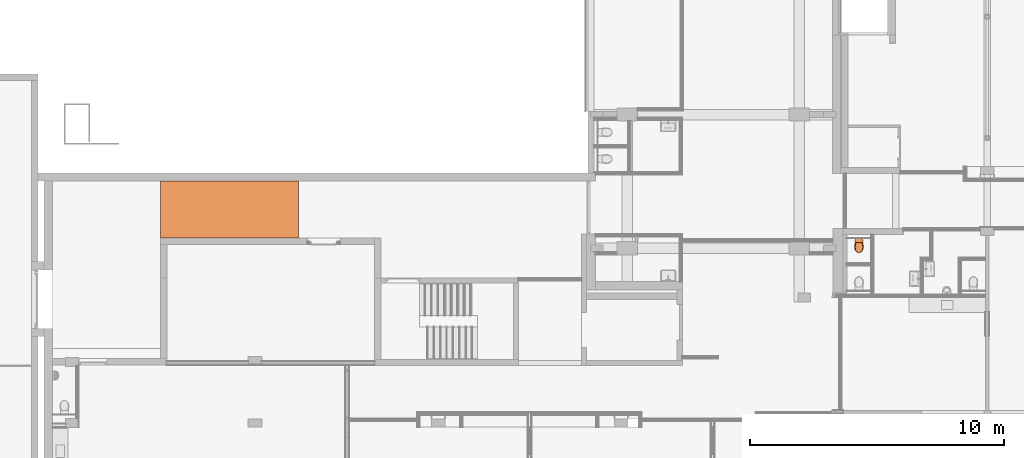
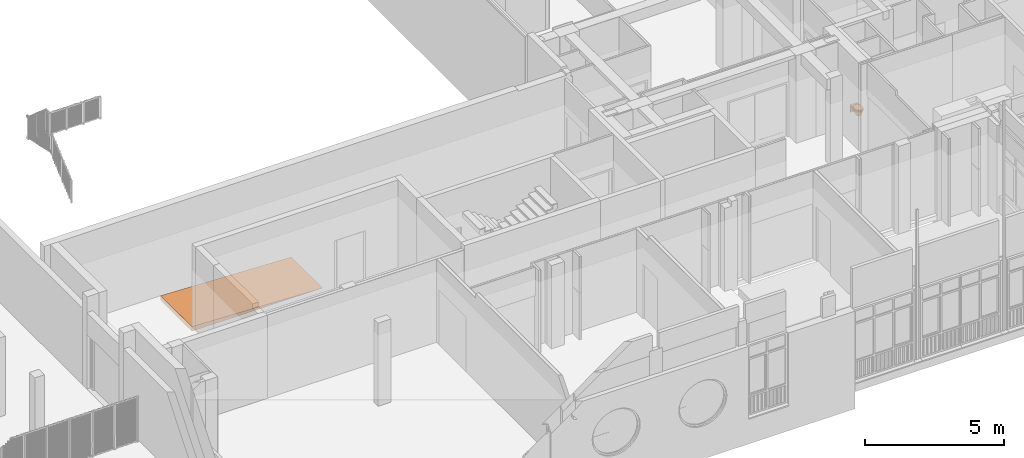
# One storey, part 132 of 135: 2 proxies.
"""IFC2X3 building model written with IfcOpenShell, lengths in millimetres."""

import ifcopenshell
import ifcopenshell.guid

model = None  # the IFC model being written
_history = None  # IfcOwnerHistory: only IFC2X3 demands one
_inside = {}  # id of a spatial element -> (the spatial element, [elements in it])
_under = {}  # id of a project, library or spatial element -> (it, [spatial elements below it])
_declared = {}  # id of a project -> (the project, [libraries it declares])
_typed = {}  # id of a type object -> (the type object, [elements of that type])
_made_of = {}  # id of a material, layer set ... -> (it, [elements and type objects made of it])


def new_model(schema):
    """Start an empty IFC model of exactly this schema.

    Asked for "IFC4X3", IfcOpenShell would pick the latest addendum, in which some entities
    have other attributes; the version numbers below select the first issue.
    IFC2X3 requires an IfcOwnerHistory on every rooted entity: one is made here for all.
    """
    global model, _history
    if schema == "IFC4X3":
        model = ifcopenshell.file(schema_version=(4, 3, 0, 0))
    else:
        model = ifcopenshell.file(schema=schema)
    _inside.clear()
    _under.clear()
    _declared.clear()
    _typed.clear()
    _made_of.clear()
    _history = None
    if model.schema == "IFC2X3":
        org = make("IfcOrganization", Name="unknown")
        user = make(
            "IfcPersonAndOrganization",
            ThePerson=make("IfcPerson", FamilyName="unknown"),
            TheOrganization=org,
        )
        app = make(
            "IfcApplication",
            ApplicationDeveloper=org,
            Version="unknown",
            ApplicationFullName="unknown",
            ApplicationIdentifier="unknown",
        )
        _history = make(
            "IfcOwnerHistory",
            OwningUser=user,
            OwningApplication=app,
            ChangeAction="ADDED",
            CreationDate=0,
        )
    return model


def make(cls, **values):
    """One entity of the class cls with the attributes given. An attribute that is None is left unset."""
    return model.create_entity(
        cls, **{name: value for name, value in values.items() if value is not None}
    )


def entity(cls, *values):
    """Any entity or typed value of the class cls, its attributes in the order of the schema. None: left unset."""
    e = model.create_entity(cls)
    for i, value in enumerate(values):
        if value is not None:
            e[i] = value
    return e


def rooted(cls, **values):
    """An entity with a GlobalId (a new one), such as an element, a storey or a relation."""
    return make(cls, GlobalId=ifcopenshell.guid.new(), OwnerHistory=_history, **values)


def si_unit(unit_type, name, prefix=None):
    """IfcSIUnit, for example si_unit("LENGTHUNIT", "METRE", prefix="MILLI")."""
    return make("IfcSIUnit", UnitType=unit_type, Prefix=prefix, Name=name)


def converted_unit(unit_type, name, factor, base, dimensions=None, offset=None):
    """IfcConversionBasedUnit, such as the inch: factor (a typed value) times the base unit."""
    return make(
        "IfcConversionBasedUnit"
        if offset is None
        else "IfcConversionBasedUnitWithOffset",
        ConversionOffset=offset,
        Dimensions=None
        if dimensions is None
        else entity("IfcDimensionalExponents", *dimensions),
        UnitType=unit_type,
        Name=name,
        ConversionFactor=make(
            "IfcMeasureWithUnit", ValueComponent=factor, UnitComponent=base
        ),
    )


def derived_unit(unit_type, elements):
    """IfcDerivedUnit: a product of units, each with its exponent."""
    return make(
        "IfcDerivedUnit",
        Elements=[
            make("IfcDerivedUnitElement", Unit=unit, Exponent=power)
            for unit, power in elements
        ],
        UnitType=unit_type,
    )


def money_unit(currency):
    """IfcMonetaryUnit."""
    return make("IfcMonetaryUnit", Currency=currency)


def assignment(units):
    """IfcUnitAssignment: the units of a project."""
    return None if units is None else make("IfcUnitAssignment", Units=units)


def point(xyz):
    """IfcCartesianPoint."""
    return None if xyz is None else make("IfcCartesianPoint", Coordinates=xyz)


def direction(xyz):
    """IfcDirection."""
    return None if xyz is None else make("IfcDirection", DirectionRatios=xyz)


def frame(location, z_axis=None, x_axis=None):
    """IfcAxis2Placement3D, a coordinate frame: its origin and axes. An axis left out is left unset."""
    return make(
        "IfcAxis2Placement3D",
        Location=point(location),
        Axis=direction(z_axis),
        RefDirection=direction(x_axis),
    )


def origin_with_axes():
    """The frame at (0, 0, 0) with the z axis (0, 0, 1) and the x axis (1, 0, 0) written out."""
    return frame((0.0, 0.0, 0.0), z_axis=(0.0, 0.0, 1.0), x_axis=(1.0, 0.0, 0.0))


def place(relative_to, where):
    """IfcLocalPlacement: puts the frame where relative to a parent placement (None: the world)."""
    return make(
        "IfcLocalPlacement", PlacementRelTo=relative_to, RelativePlacement=where
    )


def context(
    kind, dimensions, precision=None, world=None, true_north=None, identifier=None
):
    """IfcGeometricRepresentationContext, for example the 3D "Model" context."""
    return make(
        "IfcGeometricRepresentationContext",
        ContextIdentifier=identifier,
        ContextType=kind,
        CoordinateSpaceDimension=dimensions,
        Precision=precision,
        WorldCoordinateSystem=world,
        TrueNorth=true_north,
    )


def subcontext(parent, identifier, kind, view, scale=None):
    """IfcGeometricRepresentationSubContext, for example "Body" below "Model"."""
    return make(
        "IfcGeometricRepresentationSubContext",
        ContextIdentifier=identifier,
        ContextType=kind,
        ParentContext=parent,
        TargetScale=scale,
        TargetView=view,
    )


def project(units=None, contexts=None):
    """IfcProject with its units and contexts."""
    return rooted(
        "IfcProject",
        Name="project",
        RepresentationContexts=contexts,
        UnitsInContext=assignment(units),
    )


def spatial(cls, under=None, at=None, **own):
    """A site, building, storey or space (cls), placed at a placement, below another one or the project."""
    s = rooted(cls, ObjectPlacement=at, **own)
    if under is not None:
        _under.setdefault(under.id(), (under, []))[1].append(s)
    return s


def faces_of(points, faces, orient=None, outer=None):
    """IfcFace entities. A face is a list of loops; a loop is a list of indices into points, from 0.

    orient and outer hold one flag for each loop. By default every Orientation is true, the
    first loop of a face is its IfcFaceOuterBound and the others are IfcFaceBound.
    """
    made = []
    for i, loops in enumerate(faces):
        bounds = []
        for j, loop in enumerate(loops):
            is_outer = j == 0 if outer is None else outer[i][j]
            bounds.append(
                make(
                    "IfcFaceOuterBound" if is_outer else "IfcFaceBound",
                    Bound=make("IfcPolyLoop", Polygon=[points[k] for k in loop]),
                    Orientation=True if orient is None else orient[i][j],
                )
            )
        made.append(make("IfcFace", Bounds=bounds))
    return made


def open_shell(faces, orient=None, outer=None):
    """The faces of one IfcOpenShell. surface_model builds it on its shared points."""
    return ("IfcOpenShell", faces, orient, outer)


def faceted_brep(points, faces, orient=None, outer=None, voids=None):
    """IfcFacetedBrep: a solid bounded by flat faces; with voids (closed shells), ...WithVoids."""
    shared = [point(p) for p in points]
    hull = make("IfcClosedShell", CfsFaces=faces_of(shared, faces, orient, outer))
    if voids is None:
        return make("IfcFacetedBrep", Outer=hull)
    return make(
        "IfcFacetedBrepWithVoids",
        Outer=hull,
        Voids=[
            make(cls, CfsFaces=faces_of(shared, fs, o, b)) for cls, fs, o, b in voids
        ],
    )


def surface_model(cls, points, shells):
    """IfcFaceBasedSurfaceModel or IfcShellBasedSurfaceModel (cls): surfaces that need not close."""
    shared = [point(p) for p in points]
    made = [make(c, CfsFaces=faces_of(shared, fs, o, b)) for c, fs, o, b in shells]
    if cls == "IfcFaceBasedSurfaceModel":
        return make(cls, FbsmFaces=made)
    return make(cls, SbsmBoundary=made)


def shape(context_of_items, identifier, shape_type, items):
    """IfcShapeRepresentation: the items that make up one representation, for example the "Body"."""
    return make(
        "IfcShapeRepresentation",
        ContextOfItems=context_of_items,
        RepresentationIdentifier=identifier,
        RepresentationType=shape_type,
        Items=items,
    )


def source(mapping_origin, context_of_items, identifier, shape_type, items):
    """IfcRepresentationMap: a shape defined once, which mapped items show again and again."""
    return make(
        "IfcRepresentationMap",
        MappingOrigin=mapping_origin,
        MappedRepresentation=shape(context_of_items, identifier, shape_type, items),
    )


def transform(
    local_origin,
    x_axis=None,
    y_axis=None,
    z_axis=None,
    scale=None,
    scale2=None,
    scale3=None,
    uniform=True,
):
    """IfcCartesianTransformationOperator3D, or its non-uniform kind. x_axis, y_axis, z_axis: its Axis1, 2, 3."""
    if uniform:
        return make(
            "IfcCartesianTransformationOperator3D",
            Axis1=direction(x_axis),
            Axis2=direction(y_axis),
            LocalOrigin=point(local_origin),
            Scale=scale,
            Axis3=direction(z_axis),
        )
    return make(
        "IfcCartesianTransformationOperator3DnonUniform",
        Axis1=direction(x_axis),
        Axis2=direction(y_axis),
        LocalOrigin=point(local_origin),
        Scale=scale,
        Axis3=direction(z_axis),
        Scale2=scale2,
        Scale3=scale3,
    )


def mapped(mapping_source, mapping_target):
    """IfcMappedItem: shows the shape of a source again, moved by a transform."""
    return make(
        "IfcMappedItem", MappingSource=mapping_source, MappingTarget=mapping_target
    )


def made_of(thing, what):
    """Note that an element or type object is made of a material, layer set ...; save() writes the relation."""
    if what is not None:
        _made_of.setdefault(what.id(), (what, []))[1].append(thing)
    return thing


def type_object(cls, material=None, **own):
    """A type object (cls), such as IfcWallType, which elements share."""
    return made_of(rooted(cls, **own), material)


def type_shapes(of_type, sources):
    """Give a type object the sources (RepresentationMaps) that its elements show as mapped items."""
    of_type.RepresentationMaps = sources


def element(
    cls,
    number,
    at=None,
    inside=None,
    cuts=None,
    type_object=None,
    material=None,
    context=None,
    identifier="Body",
    shape_type=None,
    held_by="IfcProductDefinitionShape",
    body=None,
    shapes=None,
    **own,
):
    """One element of the class cls, such as IfcWall. Its Tag is "e" and its number.

    at: its placement. inside: the storey or other place that contains it. cuts: it is an
    opening in that element (IfcRelVoidsElement). A single representation is given by context,
    identifier, shape_type and body (its items); several are given by shapes. held_by: the class
    of the entity that holds the representations. save() writes the other relations.
    """
    e = rooted(cls, Tag="e%d" % number, ObjectPlacement=at, **own)
    if body is not None:
        shapes = [shape(context, identifier, shape_type, body)]
    if shapes is not None:
        e.Representation = make(held_by, Representations=shapes)
    if inside is not None:
        _inside.setdefault(inside.id(), (inside, []))[1].append(e)
    if cuts is not None:
        rooted(
            "IfcRelVoidsElement", RelatingBuildingElement=cuts, RelatedOpeningElement=e
        )
    if type_object is not None:
        _typed.setdefault(type_object.id(), (type_object, []))[1].append(e)
    return made_of(e, material)


def aggregate(whole, parts):
    """IfcRelAggregates: a whole, such as a stair, and the parts it consists of."""
    return rooted("IfcRelAggregates", RelatingObject=whole, RelatedObjects=parts)


def save(model, path):
    """Write the relations noted so far, then the file.

    IfcRelAggregates (storeys below a building ...), IfcRelContainedInSpatialStructure (elements
    in a storey), IfcRelDefinesByType, IfcRelAssociatesMaterial and IfcRelDeclares: one each for
    every whole, place, type object, material and project.
    """
    for whole, parts in _under.values():
        aggregate(whole, parts)
    for where, things in _inside.values():
        rooted(
            "IfcRelContainedInSpatialStructure",
            RelatedElements=things,
            RelatingStructure=where,
        )
    for kind, things in _typed.values():
        rooted("IfcRelDefinesByType", RelatedObjects=things, RelatingType=kind)
    for what, things in _made_of.values():
        rooted("IfcRelAssociatesMaterial", RelatedObjects=things, RelatingMaterial=what)
    for by, libraries in _declared.values():
        rooted("IfcRelDeclares", RelatingContext=by, RelatedDefinitions=libraries)
    model.write(path)


model = new_model("IFC2X3")

# Units and contexts
model_context = context("Model", 3, precision=0.01, world=origin_with_axes(), true_north=direction((0.0, 1.0)))
body_context = subcontext(model_context, "Body", "Model", "MODEL_VIEW")
ifc_project = project(units=[si_unit("LENGTHUNIT", "METRE", prefix="MILLI"), si_unit("AREAUNIT", "SQUARE_METRE"), si_unit("VOLUMEUNIT", "CUBIC_METRE"), converted_unit("PLANEANGLEUNIT", "DEGREE", entity("IfcPlaneAngleMeasure", 0.0174532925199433), si_unit("PLANEANGLEUNIT", "RADIAN"), dimensions=[0, 0, 0, 0, 0, 0, 0]), money_unit("EUR"), converted_unit("TIMEUNIT", "Year", entity("IfcTimeMeasure", 31557600.0), si_unit("TIMEUNIT", "SECOND"), dimensions=[0, 0, 1, 0, 0, 0, 0]), si_unit("MASSUNIT", "GRAM", prefix="KILO"), si_unit("THERMODYNAMICTEMPERATUREUNIT", "DEGREE_CELSIUS"), si_unit("LUMINOUSINTENSITYUNIT", "LUMEN"), si_unit("ENERGYUNIT", "JOULE", prefix="MEGA"), derived_unit("THERMALCONDUCTANCEUNIT", [(si_unit("POWERUNIT", "WATT"), 1), (si_unit("LENGTHUNIT", "METRE"), -1), (si_unit("THERMODYNAMICTEMPERATUREUNIT", "KELVIN"), -1)]), derived_unit("SPECIFICHEATCAPACITYUNIT", [(si_unit("ENERGYUNIT", "JOULE"), 1), (si_unit("MASSUNIT", "GRAM", prefix="KILO"), -1), (si_unit("THERMODYNAMICTEMPERATUREUNIT", "KELVIN"), -1)]), derived_unit("MASSDENSITYUNIT", [(si_unit("MASSUNIT", "GRAM", prefix="KILO"), 1), (si_unit("VOLUMEUNIT", "CUBIC_METRE"), -1)])], contexts=[model_context])

# Site, building, storey
site_placement = place(None, origin_with_axes())
site = spatial("IfcSite", under=ifc_project, at=site_placement, Name="Site", CompositionType="ELEMENT")
building_placement = place(site_placement, origin_with_axes())
building = spatial("IfcBuilding", under=site, at=building_placement, Name="Naam gebouw", CompositionType="ELEMENT")
storey_placement = place(building_placement, origin_with_axes())
storey = spatial("IfcBuildingStorey", under=building, at=storey_placement, Name="Begane grond N", CompositionType="ELEMENT", Elevation=0.0)

# Proxies
building_element_proxy_type_1 = type_object("IfcBuildingElementProxyType", Name="Toilet 27", PredefinedType="NOTDEFINED")
shared_shape = source(origin_with_axes(), body_context, "Body", "SurfaceModel", [
    faceted_brep([(-141.0283315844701, -29.31865370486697, 69.99999999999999), (-141.0283315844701, 0.4949050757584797, 69.99999999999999), (141.0283315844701, 0.4949050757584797, 69.99999999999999), (141.0283315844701, -29.31865370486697, 69.99999999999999), (-141.0283315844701, -29.31865370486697, 370.0), (-141.0283315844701, 0.4949050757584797, 370.0), (141.0283315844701, 0.4949050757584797, 370.0), (141.0283315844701, -29.31865370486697, 370.0)], [[[0, 1, 2, 3]], [[0, 4, 5, 1]], [[1, 5, 6, 2]], [[2, 6, 7, 3]], [[3, 7, 4, 0]], [[7, 6, 5, 4]]]),
    faceted_brep([(0.0, -70.89167385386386, 370.0), (29.22322490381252, -74.34010881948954, 370.0), (48.96817068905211, -81.5929972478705, 370.0), (48.96817068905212, -29.31865370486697, 370.0), (-48.96817068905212, -29.31865370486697, 370.0), (-48.96817068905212, -81.5929972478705, 370.0), (-29.22322490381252, -74.34010881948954, 370.0), (0.0, -102.6888280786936, 120.0), (13.70129415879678, -104.9506834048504, 120.0), (48.96817068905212, -88.2509938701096, 324.1614695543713), (48.96817068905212, -91.42153264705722, 305.9289314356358), (48.96817068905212, -107.0876370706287, 223.4625696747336), (48.96817068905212, -115.6023982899, 192.7960154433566), (48.96817068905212, -121.830119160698, 170.4964192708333), (48.96817068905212, -132.9294031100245, 150.8349994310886), (48.96817068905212, -136.958898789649, 141.3134093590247), (48.96817068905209, -162.865413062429, 120.0), (48.96817068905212, -29.31865370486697, 120.0), (-48.96817068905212, -29.31865370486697, 120.0), (-48.96817068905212, -132.9294031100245, 150.8349994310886), (-48.96817068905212, -128.1614437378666, 166.4745945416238), (-48.96817068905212, -115.6023982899, 192.7960154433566), (-48.96817068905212, -98.32654517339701, 277.0091093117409), (-48.96817068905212, -91.42153264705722, 305.9289314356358), (-48.96817068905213, -162.8654130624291, 120.0), (-25.9903462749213, -111.5027098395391, 120.0), (-13.70129415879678, -104.9506834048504, 120.0), (25.9903462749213, -111.5027098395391, 120.0), (35.59888072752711, -121.6691333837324, 120.0), (41.53676110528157, -134.4015105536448, 120.0), (-35.59888072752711, -121.6691333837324, 120.0), (-41.53676110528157, -134.4015105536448, 120.0)], [[[0, 1, 2, 3, 4, 5, 6]], [[0, 7, 1]], [[1, 8, 9, 2]], [[9, 10, 11, 12, 13, 14, 15, 16, 17, 3, 2]], [[4, 3, 17, 18]], [[19, 20, 21, 22, 23, 5, 4, 18, 24]], [[23, 25, 6, 5]], [[6, 26, 0]], [[7, 0, 26]], [[8, 1, 7]], [[27, 10, 9, 8]], [[10, 27, 11]], [[28, 12, 11, 27]], [[12, 28, 13]], [[29, 14, 13, 28]], [[14, 29, 15]], [[16, 15, 29]], [[29, 28, 27, 8, 7, 26, 25, 30, 31, 24, 18, 17, 16]], [[19, 31, 20]], [[20, 31, 30, 21]], [[21, 30, 22]], [[22, 30, 25, 23]], [[24, 31, 19]], [[26, 6, 25]]]),
    surface_model("IfcShellBasedSurfaceModel", [(-17.69122070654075, -459.020482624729, 120.0), (-85.18209164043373, -535.3680377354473, 370.0), (-34.02798181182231, -451.6883347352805, 120.0), (-44.28681357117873, -553.722258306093, 370.0), (-119.554809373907, -506.3435444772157, 370.0), (-47.75865687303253, -440.0938417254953, 120.0), (-57.83238894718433, -425.1254476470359, 120.0), (-68.23029031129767, -399.4182096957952, 120.0), (-74.94382651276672, -372.4786779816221, 120.0), (-77.83882476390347, -344.845484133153, 120.0), (-76.85750262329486, -317.0761416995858, 120.0), (-70.97348723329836, -270.8651255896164, 120.0), (-63.11507520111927, -224.9582077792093, 120.0), (-53.29597761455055, -179.4418475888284, 120.0), (-41.53676110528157, -134.4015105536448, 120.0), (-35.59888072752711, -121.6691333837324, 120.0), (-25.9903462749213, -111.5027098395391, 120.0), (-13.70129415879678, -104.9506834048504, 120.0), (0.0, -102.6888280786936, 120.0), (13.70129415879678, -104.9506834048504, 120.0), (25.9903462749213, -111.5027098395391, 120.0), (35.59888072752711, -121.6691333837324, 120.0), (41.53676110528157, -134.4015105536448, 120.0), (53.29597761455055, -179.4418475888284, 120.0), (63.11507520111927, -224.9582077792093, 120.0), (70.97348723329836, -270.8651255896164, 120.0), (76.85750262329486, -317.0761416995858, 120.0), (77.83882476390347, -344.8464779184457, 120.0), (74.94382651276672, -372.4786779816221, 120.0), (68.23029031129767, -399.4182096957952, 120.0), (57.83238894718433, -425.1254476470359, 120.0), (47.75865687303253, -440.0938417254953, 120.0), (34.02798181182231, -451.6883347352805, 120.0), (17.69122070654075, -459.020482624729, 120.0), (0.0, -461.5278029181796, 120.0), (-144.7734172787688, -468.8718762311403, 370.0), (-160.3903462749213, -430.2603362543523, 370.0), (-170.4738719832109, -389.7973742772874, 370.0), (-174.8222455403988, -348.2949128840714, 370.0), (-173.3473242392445, -306.5847503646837, 370.0), (-164.8111927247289, -257.2969749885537, 370.0), (-149.8396642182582, -209.614162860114, 370.0), (-128.7050017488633, -164.3989196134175, 370.0), (-101.7881776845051, -122.4661491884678, 370.0), (-81.51241692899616, -100.8344247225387, 370.0), (-56.88632388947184, -84.50156343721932, 370.0), (-29.22322490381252, -74.34010881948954, 370.0), (0.0, -70.89167385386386, 370.0), (29.22322490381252, -74.34010881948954, 370.0), (56.88632388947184, -84.50156343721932, 370.0), (81.51241692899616, -100.8344247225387, 370.0), (101.7881776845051, -122.4661491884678, 370.0), (128.7050017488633, -164.3989196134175, 370.0), (149.8396642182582, -209.614162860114, 370.0), (164.8111927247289, -257.295981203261, 370.0), (173.3473242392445, -306.5847503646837, 370.0), (174.8222455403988, -348.2949128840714, 370.0), (170.4738719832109, -389.7973742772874, 370.0), (160.3893669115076, -430.2603362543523, 370.0), (144.7734172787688, -468.8718762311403, 370.0), (119.554809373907, -506.3435444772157, 370.0), (85.18209164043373, -535.3680377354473, 370.0), (44.28681357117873, -553.722258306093, 370.0), (0.0, -560.0, 370.0)], [open_shell([[[0, 1, 2]], [[0, 3, 1]], [[2, 1, 4]], [[0, 2, 5, 6, 7, 8, 9, 10, 11, 12, 13, 14, 15, 16, 17, 18, 19, 20, 21, 22, 23, 24, 25, 26, 27, 28, 29, 30, 31, 32, 33, 34]], [[34, 3, 0]], [[2, 4, 5]], [[5, 35, 6]], [[6, 36, 7]], [[7, 37, 8]], [[8, 38, 9]], [[9, 39, 10]], [[10, 40, 11]], [[11, 41, 12]], [[12, 42, 13]], [[13, 43, 14]], [[14, 44, 15]], [[15, 45, 16]], [[16, 46, 17]], [[17, 47, 18]], [[18, 48, 19]], [[19, 49, 20]], [[20, 50, 21]], [[21, 51, 22]], [[22, 52, 23]], [[23, 53, 24]], [[24, 54, 25]], [[25, 55, 26]], [[26, 56, 27]], [[27, 57, 28]], [[28, 58, 29]], [[29, 59, 30]], [[30, 60, 31]], [[31, 61, 32]], [[32, 62, 33]], [[33, 63, 34]], [[34, 63, 3]], [[5, 4, 35]], [[6, 35, 36]], [[7, 36, 37]], [[8, 37, 38]], [[9, 38, 39]], [[10, 39, 40]], [[11, 40, 41]], [[12, 41, 42]], [[13, 42, 43]], [[14, 43, 44]], [[15, 44, 45]], [[16, 45, 46]], [[17, 46, 47]], [[18, 47, 48]], [[19, 48, 49]], [[20, 49, 50]], [[21, 50, 51]], [[22, 51, 52]], [[23, 52, 53]], [[24, 53, 54]], [[25, 54, 55]], [[26, 55, 56]], [[27, 56, 57]], [[28, 57, 58]], [[29, 58, 59]], [[30, 59, 60]], [[31, 60, 61]], [[32, 61, 62]], [[33, 62, 63]]])]),
    faceted_brep([(173.3473242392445, -306.5847503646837, 370.0), (173.3473242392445, -306.5847503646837, 400.0), (174.8222455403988, -348.2949128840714, 400.0), (174.8222455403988, -348.2949128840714, 370.0), (140.9734872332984, 0.0, 370.0), (140.9734872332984, 0.0, 400.0), (-140.975445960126, 0.0, 400.0), (-173.3473242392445, -306.5847503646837, 400.0), (-174.8222455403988, -348.2949128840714, 400.0), (-170.4738719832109, -389.7973742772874, 400.0), (-160.3903462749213, -430.2603362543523, 400.0), (-144.7734172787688, -468.8718762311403, 400.0), (-119.554809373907, -506.3435444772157, 400.0), (-85.18209164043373, -535.3680377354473, 400.0), (-44.28681357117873, -553.722258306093, 400.0), (0.0, -560.0, 400.0), (44.28681357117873, -553.722258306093, 400.0), (85.18209164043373, -535.3680377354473, 400.0), (119.554809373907, -506.3435444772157, 400.0), (144.7734172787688, -468.8718762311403, 400.0), (160.3893669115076, -430.2603362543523, 400.0), (170.4738719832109, -389.7973742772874, 400.0), (-144.5021336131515, -309.7211367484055, 400.0), (-129.3885974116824, -258.2838037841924, 400.0), (-97.13522210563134, -215.7418429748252, 400.0), (-52.01301154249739, -187.731010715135, 400.0), (0.0, -177.9630950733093, 400.0), (52.01301154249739, -187.731010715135, 400.0), (97.13522210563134, -215.7418429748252, 400.0), (129.3885974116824, -258.2838037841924, 400.0), (144.5021336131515, -309.7211367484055, 400.0), (145.8291710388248, -347.2633637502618, 400.0), (141.914655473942, -384.6197529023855, 400.0), (132.838894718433, -421.0399963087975, 400.0), (118.7820916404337, -455.7936617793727, 400.0), (98.09206016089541, -486.5383973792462, 400.0), (69.89031129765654, -510.3524743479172, 400.0), (36.33634137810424, -525.411302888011, 400.0), (0.0, -530.5620920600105, 400.0), (-36.33634137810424, -525.411302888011, 400.0), (-69.89031129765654, -510.3524743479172, 400.0), (-98.09206016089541, -486.5383973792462, 400.0), (-118.7820916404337, -455.7936617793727, 400.0), (-132.838894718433, -421.0399963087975, 400.0), (-141.914655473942, -384.6197529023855, 400.0), (-145.8291710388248, -347.2633637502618, 400.0), (170.4738719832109, -389.7973742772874, 370.0), (160.3893669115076, -430.2603362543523, 370.0), (144.7734172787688, -468.8718762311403, 370.0), (119.554809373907, -506.3435444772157, 370.0), (85.18209164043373, -535.3680377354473, 370.0), (44.28681357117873, -553.722258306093, 370.0), (0.0, -560.0, 370.0), (-44.28681357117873, -553.722258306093, 370.0), (-85.18209164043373, -535.3680377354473, 370.0), (-119.554809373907, -506.3435444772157, 370.0), (-144.7734172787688, -468.8718762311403, 370.0), (-160.3903462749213, -430.2603362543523, 370.0), (-170.4738719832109, -389.7973742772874, 370.0), (-174.8222455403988, -348.2949128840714, 370.0), (-173.3473242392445, -306.5847503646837, 370.0), (-140.975445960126, 0.0, 370.0), (-144.5021336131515, -309.7211367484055, 370.0), (-145.8291710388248, -347.2633637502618, 370.0), (-141.914655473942, -384.6197529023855, 370.0), (-132.838894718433, -421.0399963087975, 370.0), (-118.7820916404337, -455.7936617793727, 370.0), (-98.09206016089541, -486.5383973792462, 370.0), (-69.89031129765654, -510.3524743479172, 370.0), (-36.33634137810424, -525.411302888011, 370.0), (0.0, -530.5620920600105, 370.0), (36.33634137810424, -525.411302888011, 370.0), (69.89031129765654, -510.3524743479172, 370.0), (98.09206016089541, -486.5383973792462, 370.0), (118.7820916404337, -455.7936617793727, 370.0), (132.838894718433, -421.0399963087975, 370.0), (141.914655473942, -384.6197529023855, 370.0), (145.8291710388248, -347.2633637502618, 370.0), (144.5021336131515, -309.7211367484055, 370.0), (129.3885974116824, -258.2838037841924, 370.0), (97.13522210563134, -215.7418429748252, 370.0), (52.01301154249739, -187.731010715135, 370.0), (0.0, -177.9630950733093, 370.0), (-52.01301154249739, -187.731010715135, 370.0), (-97.13522210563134, -215.7418429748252, 370.0), (-129.3885974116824, -258.2838037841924, 370.0)], [[[0, 1, 2, 3]], [[4, 5, 1, 0]], [[1, 5, 6, 7, 8, 9, 10, 11, 12, 13, 14, 15, 16, 17, 18, 19, 20, 21, 2], [22, 23, 24, 25, 26, 27, 28, 29, 30, 31, 32, 33, 34, 35, 36, 37, 38, 39, 40, 41, 42, 43, 44, 45]], [[3, 2, 21, 46]], [[0, 3, 46, 47, 48, 49, 50, 51, 52, 53, 54, 55, 56, 57, 58, 59, 60, 61, 4], [62, 63, 64, 65, 66, 67, 68, 69, 70, 71, 72, 73, 74, 75, 76, 77, 78, 79, 80, 81, 82, 83, 84, 85]], [[61, 6, 5, 4]], [[60, 7, 6, 61]], [[59, 8, 7, 60]], [[58, 9, 8, 59]], [[57, 10, 9, 58]], [[56, 11, 10, 57]], [[55, 12, 11, 56]], [[54, 13, 12, 55]], [[53, 14, 13, 54]], [[52, 15, 14, 53]], [[51, 16, 15, 52]], [[50, 17, 16, 51]], [[49, 18, 17, 50]], [[48, 19, 18, 49]], [[47, 20, 19, 48]], [[46, 21, 20, 47]], [[85, 23, 22, 62]], [[84, 24, 23, 85]], [[83, 25, 24, 84]], [[82, 26, 25, 83]], [[81, 27, 26, 82]], [[80, 28, 27, 81]], [[79, 29, 28, 80]], [[78, 30, 29, 79]], [[77, 31, 30, 78]], [[76, 32, 31, 77]], [[75, 33, 32, 76]], [[74, 34, 33, 75]], [[73, 35, 34, 74]], [[72, 36, 35, 73]], [[71, 37, 36, 72]], [[70, 38, 37, 71]], [[69, 39, 38, 70]], [[68, 40, 39, 69]], [[67, 41, 40, 68]], [[66, 42, 41, 67]], [[65, 43, 42, 66]], [[64, 44, 43, 65]], [[63, 45, 44, 64]], [[62, 22, 45, 63]]]),
    surface_model("IfcShellBasedSurfaceModel", [(-16.80665967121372, -465.7329258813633, 220.0), (-80.92298705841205, -525.2840188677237, 370.0), (-32.3265827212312, -460.0138505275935, 220.0), (-42.0724728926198, -539.6003109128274, 370.0), (-113.5770689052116, -502.644914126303, 370.0), (-45.3707240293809, -450.970145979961, 220.0), (-54.94076949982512, -439.2947985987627, 220.0), (-64.81877579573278, -419.2431529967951, 220.0), (-71.1966351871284, -398.23031825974, 220.0), (-73.9468835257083, -376.6764270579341, 220.0), (-73.01462749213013, -355.0163399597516, 220.0), (-67.42481287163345, -318.9717473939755, 220.0), (-59.95932144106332, -283.164351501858, 220.0), (-50.63117873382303, -247.6615905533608, 220.0), (-39.4599230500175, -212.5301276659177, 220.0), (-33.81893669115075, -202.598873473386, 220.0), (-24.69082896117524, -194.6690631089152, 220.0), (-13.01622945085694, -189.558482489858, 220.0), (0.0, -187.7942353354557, 220.0), (13.01622945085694, -189.558482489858, 220.0), (24.69082896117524, -194.6690631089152, 220.0), (33.81893669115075, -202.598873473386, 220.0), (39.4599230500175, -212.5301276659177, 220.0), (50.63117873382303, -247.6615905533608, 220.0), (59.95932144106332, -283.164351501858, 220.0), (67.42481287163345, -318.9717473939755, 220.0), (73.01462749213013, -355.0163399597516, 220.0), (73.9468835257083, -376.6772022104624, 220.0), (71.1966351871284, -398.23031825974, 220.0), (64.81877579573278, -419.2431529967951, 220.0), (54.94076949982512, -439.2947985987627, 220.0), (45.3707240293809, -450.970145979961, 220.0), (32.3265827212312, -460.0138505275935, 220.0), (16.80665967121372, -465.7329258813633, 220.0), (0.0, -467.6886357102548, 220.0), (-137.5347464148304, -473.4170128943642, 370.0), (-152.3708289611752, -443.3000117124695, 370.0), (-161.9501783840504, -411.7389013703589, 370.0), (-166.0811332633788, -379.3669814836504, 370.0), (-164.6799580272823, -346.833054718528, 370.0), (-156.5706330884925, -308.3885899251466, 370.0), (-142.3476810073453, -271.1959964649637, 370.0), (-122.2697516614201, -235.9281067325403, 370.0), (-96.69876880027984, -203.2205458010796, 370.0), (-77.43679608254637, -186.3478007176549, 370.0), (-54.04200769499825, -173.6081689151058, 370.0), (-27.7620636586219, -165.6822343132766, 370.0), (0.0, -162.9924550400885, 370.0), (27.7620636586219, -165.6822343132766, 370.0), (54.04200769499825, -173.6081689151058, 370.0), (77.43679608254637, -186.3478007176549, 370.0), (96.69876880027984, -203.2205458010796, 370.0), (122.2697516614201, -235.9281067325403, 370.0), (142.3476810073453, -271.1959964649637, 370.0), (156.5706330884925, -308.3878147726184, 370.0), (164.6799580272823, -346.833054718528, 370.0), (166.0811332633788, -379.3669814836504, 370.0), (161.9501783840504, -411.7389013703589, 370.0), (152.3698985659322, -443.3000117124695, 370.0), (137.5347464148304, -473.4170128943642, 370.0), (113.5770689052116, -502.644914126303, 370.0), (80.92298705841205, -525.2840188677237, 370.0), (42.0724728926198, -539.6003109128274, 370.0), (0.0, -544.4969494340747, 370.0)], [open_shell([[[0, 1, 2]], [[0, 3, 1]], [[2, 1, 4]], [[0, 2, 5, 6, 7, 8, 9, 10, 11, 12, 13, 14, 15, 16, 17, 18, 19, 20, 21, 22, 23, 24, 25, 26, 27, 28, 29, 30, 31, 32, 33, 34]], [[34, 3, 0]], [[2, 4, 5]], [[5, 35, 6]], [[6, 36, 7]], [[7, 37, 8]], [[8, 38, 9]], [[9, 39, 10]], [[10, 40, 11]], [[11, 41, 12]], [[12, 42, 13]], [[13, 43, 14]], [[14, 44, 15]], [[15, 45, 16]], [[16, 46, 17]], [[17, 47, 18]], [[18, 48, 19]], [[19, 49, 20]], [[20, 50, 21]], [[21, 51, 22]], [[22, 52, 23]], [[23, 53, 24]], [[24, 54, 25]], [[25, 55, 26]], [[26, 56, 27]], [[27, 57, 28]], [[28, 58, 29]], [[29, 59, 30]], [[30, 60, 31]], [[31, 61, 32]], [[32, 62, 33]], [[33, 63, 34]], [[34, 63, 3]], [[5, 4, 35]], [[6, 35, 36]], [[7, 36, 37]], [[8, 37, 38]], [[9, 38, 39]], [[10, 39, 40]], [[11, 40, 41]], [[12, 41, 42]], [[13, 42, 43]], [[14, 43, 44]], [[15, 44, 45]], [[16, 45, 46]], [[17, 46, 47]], [[18, 47, 48]], [[19, 48, 49]], [[20, 49, 50]], [[21, 50, 51]], [[22, 51, 52]], [[23, 52, 53]], [[24, 53, 54]], [[25, 54, 55]], [[26, 55, 56]], [[27, 56, 57]], [[28, 57, 58]], [[29, 58, 59]], [[30, 59, 60]], [[31, 60, 61]], [[32, 61, 62]], [[33, 62, 63]]])]),
    faceted_brep([(0.0, -560.0, 400.0), (-44.28681357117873, -553.722258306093, 400.0), (-85.18209164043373, -535.3680377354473, 400.0), (-119.554809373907, -506.3435444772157, 400.0), (-144.7734172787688, -468.8718762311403, 400.0), (-160.3903462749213, -430.2603362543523, 400.0), (-170.4738719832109, -389.7973742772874, 400.0), (-174.8222455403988, -348.2949128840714, 400.0), (-173.3473242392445, -306.5847503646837, 400.0), (-166.4663168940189, -264.4263906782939, 400.0), (-154.8716334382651, -223.3443004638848, 400.0), (-138.7150752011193, -183.8810864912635, 400.0), (-110.1926579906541, -151.3163525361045, 400.0), (110.1926579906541, -151.3163525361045, 400.0), (138.7150752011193, -183.8810864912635, 400.0), (154.8716334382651, -223.3443004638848, 400.0), (166.4663168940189, -264.4263906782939, 400.0), (173.3473242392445, -306.5847503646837, 400.0), (174.8222455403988, -348.2949128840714, 400.0), (170.4738719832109, -389.7973742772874, 400.0), (160.3893669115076, -430.2603362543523, 400.0), (144.7734172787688, -468.8718762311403, 400.0), (119.554809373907, -506.3435444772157, 400.0), (85.18209164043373, -535.3680377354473, 400.0), (44.28681357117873, -553.722258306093, 400.0), (-87.07689659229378, -411.9963613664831, 400.0), (-76.4888004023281, -438.0775703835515, 400.0), (-62.06856874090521, -459.4262123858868, 400.0), (-44.26109835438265, -474.4067566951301, 400.0), (-23.02579943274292, -483.9023013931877, 400.0), (0.0, -487.1544663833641, 400.0), (23.02579943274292, -483.9023013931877, 400.0), (44.26109835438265, -474.4067566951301, 400.0), (62.06856874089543, -459.4262123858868, 400.0), (76.4888004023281, -438.0775703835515, 400.0), (87.07689659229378, -411.9963613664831, 400.0), (94.51085540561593, -382.2763031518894, 400.0), (97.71606496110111, -351.7983255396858, 400.0), (96.61425296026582, -320.7429308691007, 400.0), (90.99294096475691, -286.7942733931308, 400.0), (81.3289539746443, -253.3384220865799, 400.0), (68.75412876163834, -223.4663237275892, 400.0), (-68.75448552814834, -223.4663237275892, 400.0), (-81.32886310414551, -253.3381075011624, 400.0), (-90.99294096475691, -286.7942733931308, 400.0), (-96.61425296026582, -320.7429308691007, 400.0), (-97.71606496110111, -351.7983255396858, 400.0), (-94.51085540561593, -382.2763031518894, 400.0), (-42.15180132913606, -546.1188070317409, 420.0000000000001), (-81.07562084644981, -528.649055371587, 420.0000000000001), (-113.7912556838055, -501.0248055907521, 420.0000000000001), (-137.7925148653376, -465.3598390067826, 420.0000000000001), (-152.9902763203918, -427.7848170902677, 420.0000000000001), (-162.8034977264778, -388.4070686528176, 420.0000000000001), (-167.0353270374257, -348.0176467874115, 420.0000000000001), (-165.6005596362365, -307.4274802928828, 420.0000000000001), (-158.5902763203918, -264.9332211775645, 420.0000000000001), (-146.6880727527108, -223.5758524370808, 420.0000000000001), (-130.06142007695, -183.9307757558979, 420.0000000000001), (-108.940468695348, -151.3163525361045, 420.0000000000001), (108.940468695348, -151.3163525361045, 420.0000000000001), (130.06142007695, -183.9317695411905, 420.0000000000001), (146.6880727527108, -223.5758524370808, 420.0000000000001), (158.5902763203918, -264.9332211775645, 420.0000000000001), (165.6005596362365, -307.4274802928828, 420.0000000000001), (167.0353270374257, -348.0176467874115, 420.0000000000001), (162.8034977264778, -388.4070686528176, 420.0000000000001), (152.9902763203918, -427.7848170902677, 420.0000000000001), (137.7925148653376, -465.3598390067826, 420.0000000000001), (113.7912556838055, -501.0248055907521, 420.0000000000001), (81.07562084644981, -528.649055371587, 420.0000000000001), (42.15180132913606, -546.1188070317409, 420.0000000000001), (0.0, -552.0944379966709, 420.0000000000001), (-76.4888004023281, -438.0775703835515, 420.0), (-87.07689659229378, -411.9963613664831, 420.0), (-62.06856874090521, -459.4262123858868, 420.0), (-44.26109835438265, -474.4067566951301, 420.0), (-23.02579943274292, -483.9023013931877, 420.0), (0.0, -487.1544663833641, 420.0), (23.02579943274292, -483.9023013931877, 420.0000000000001), (44.26109835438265, -474.4067566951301, 420.0000000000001), (62.06856874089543, -459.4262123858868, 420.0000000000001), (76.4888004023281, -438.0775703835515, 420.0000000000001), (87.07689659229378, -411.9963613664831, 420.0000000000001), (94.51085540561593, -382.2763031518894, 420.0000000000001), (97.71606496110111, -351.7983255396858, 420.0000000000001), (96.61425296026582, -320.7429308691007, 420.0000000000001), (90.99294096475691, -286.7942733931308, 420.0000000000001), (81.3289539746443, -253.3384220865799, 420.0000000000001), (68.75412876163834, -223.4663237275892, 420.0000000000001), (-68.75448552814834, -223.4663237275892, 420.0), (-81.32886310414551, -253.3381075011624, 420.0), (-90.99294096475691, -286.7942733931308, 420.0), (-96.61425296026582, -320.7429308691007, 420.0), (-97.71606496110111, -351.7983255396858, 420.0), (-94.51085540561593, -382.2763031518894, 420.0)], [[[0, 1, 2, 3, 4, 5, 6, 7, 8, 9, 10, 11, 12, 13, 14, 15, 16, 17, 18, 19, 20, 21, 22, 23, 24], [25, 26, 27, 28, 29, 30, 31, 32, 33, 34, 35, 36, 37, 38, 39, 40, 41, 42, 43, 44, 45, 46, 47]], [[0, 48, 1]], [[1, 49, 2]], [[2, 50, 3]], [[3, 51, 4]], [[5, 4, 51, 52]], [[5, 53, 6]], [[7, 6, 53, 54]], [[7, 55, 8]], [[8, 56, 9]], [[9, 57, 10]], [[10, 58, 11]], [[11, 59, 12]], [[13, 12, 59, 60]], [[13, 61, 14]], [[14, 62, 15]], [[15, 63, 16]], [[16, 64, 17]], [[17, 65, 18]], [[19, 18, 65, 66]], [[19, 67, 20]], [[20, 68, 21]], [[21, 69, 22]], [[22, 70, 23]], [[23, 71, 24]], [[24, 72, 0]], [[73, 26, 25, 74]], [[75, 27, 26, 73]], [[76, 28, 27, 75]], [[77, 29, 28, 76]], [[78, 30, 29, 77]], [[79, 31, 30, 78]], [[80, 32, 31, 79]], [[81, 33, 32, 80]], [[82, 34, 33, 81]], [[83, 35, 34, 82]], [[84, 36, 35, 83]], [[85, 37, 36, 84]], [[86, 38, 37, 85]], [[87, 39, 38, 86]], [[88, 40, 39, 87]], [[89, 41, 40, 88]], [[90, 42, 41, 89]], [[91, 43, 42, 90]], [[92, 44, 43, 91]], [[93, 45, 44, 92]], [[94, 46, 45, 93]], [[95, 47, 46, 94]], [[74, 25, 47, 95]], [[0, 72, 48]], [[1, 48, 49]], [[2, 49, 50]], [[3, 50, 51]], [[66, 65, 64, 63, 62, 61, 60, 59, 58, 57, 56, 55, 54, 53, 52, 51, 50, 49, 48, 72, 71, 70, 69, 68, 67], [92, 91, 90, 89, 88, 87, 86, 85, 84, 83, 82, 81, 80, 79, 78, 77, 76, 75, 73, 74, 95, 94, 93]], [[5, 52, 53]], [[7, 54, 55]], [[8, 55, 56]], [[9, 56, 57]], [[10, 57, 58]], [[11, 58, 59]], [[13, 60, 61]], [[14, 61, 62]], [[15, 62, 63]], [[16, 63, 64]], [[17, 64, 65]], [[19, 66, 67]], [[20, 67, 68]], [[21, 68, 69]], [[22, 69, 70]], [[23, 70, 71]], [[24, 71, 72]]]),
    faceted_brep([(107.5993284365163, -494.4181209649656, 420.0000000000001), (72.96805876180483, -528.649055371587, 440.0000000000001), (76.66388247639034, -519.4674730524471, 420.0000000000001), (102.412130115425, -501.0248055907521, 440.0000000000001), (37.93662119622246, -546.1188070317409, 440.0000000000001), (39.85813221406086, -538.8154789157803, 420.0000000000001), (0.0, -545.0932206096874, 420.0000000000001), (-39.85813221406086, -538.8154789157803, 420.0000000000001), (-76.66388247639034, -519.4674730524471, 420.0000000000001), (-107.5993284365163, -494.4181209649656, 420.0000000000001), (-130.2960755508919, -463.9029497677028, 420.0000000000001), (-144.3513116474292, -430.2603362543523, 420.0000000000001), (-153.4264847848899, -389.7973742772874, 420.0000000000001), (-157.3400209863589, -348.2949128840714, 420.0000000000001), (-156.01259181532, -306.5847503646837, 420.0000000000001), (-149.819685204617, -264.4263906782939, 420.0000000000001), (-139.3844700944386, -223.3443004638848, 420.0000000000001), (-119.5550052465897, -183.8810864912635, 420.0000000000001), (-99.17339219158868, -151.3163525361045, 420.0000000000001), (99.17339219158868, -151.3163525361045, 420.0000000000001), (119.5550052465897, -183.8810864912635, 420.0000000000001), (139.3844700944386, -223.3443004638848, 420.0000000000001), (149.819685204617, -264.4263906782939, 420.0000000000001), (156.01259181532, -306.5847503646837, 420.0000000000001), (157.3400209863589, -348.2949128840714, 420.0000000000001), (153.4264847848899, -389.7973742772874, 420.0000000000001), (144.3504302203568, -430.2603362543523, 420.0000000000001), (130.2960755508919, -463.9029497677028, 420.0000000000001), (124.0132633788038, -465.3598390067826, 440.0000000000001), (137.6912486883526, -427.7848170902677, 440.0000000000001), (146.52314795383, -388.4070686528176, 440.0000000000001), (150.3317943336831, -348.0176467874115, 440.0000000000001), (149.0405036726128, -307.4274802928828, 440.0000000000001), (142.7312486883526, -264.9332211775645, 440.0000000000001), (132.0192654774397, -223.5758524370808, 440.0000000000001), (117.055278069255, -183.9317695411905, 440.0000000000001), (98.04642182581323, -151.3163525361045, 440.0000000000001), (-98.04642182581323, -151.3163525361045, 440.0000000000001), (-117.055278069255, -183.9307757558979, 440.0000000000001), (-132.0192654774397, -223.5758524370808, 440.0000000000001), (-142.7312486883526, -264.9332211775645, 440.0000000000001), (-149.0405036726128, -307.4274802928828, 440.0000000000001), (-150.3317943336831, -348.0176467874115, 440.0000000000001), (-146.52314795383, -388.4070686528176, 440.0000000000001), (-137.6912486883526, -427.7848170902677, 440.0000000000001), (-124.0132633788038, -465.3598390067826, 440.0000000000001), (-102.412130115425, -501.0248055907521, 440.0000000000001), (-72.96805876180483, -528.649055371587, 440.0000000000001), (-37.93662119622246, -546.1188070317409, 440.0000000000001), (0.0, -552.0944379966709, 440.0000000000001)], [[[0, 1, 2]], [[0, 3, 1]], [[2, 1, 4]], [[0, 2, 5, 6, 7, 8, 9, 10, 11, 12, 13, 14, 15, 16, 17, 18, 19, 20, 21, 22, 23, 24, 25, 26, 27]], [[27, 3, 0]], [[3, 28, 29, 30, 31, 32, 33, 34, 35, 36, 37, 38, 39, 40, 41, 42, 43, 44, 45, 46, 47, 48, 49, 4, 1]], [[2, 4, 5]], [[5, 49, 6]], [[6, 48, 7]], [[7, 47, 8]], [[8, 46, 9]], [[9, 45, 10]], [[10, 44, 11]], [[11, 43, 12]], [[12, 43, 42, 13]], [[13, 41, 14]], [[14, 40, 15]], [[15, 39, 16]], [[16, 38, 17]], [[17, 37, 18]], [[18, 37, 36, 19]], [[19, 35, 20]], [[20, 34, 21]], [[21, 33, 22]], [[22, 32, 23]], [[23, 31, 24]], [[24, 31, 30, 25]], [[25, 29, 26]], [[26, 28, 27]], [[27, 28, 3]], [[26, 29, 28]], [[25, 30, 29]], [[23, 32, 31]], [[22, 33, 32]], [[21, 34, 33]], [[20, 35, 34]], [[19, 36, 35]], [[17, 38, 37]], [[16, 39, 38]], [[15, 40, 39]], [[14, 41, 40]], [[13, 42, 41]], [[11, 44, 43]], [[10, 45, 44]], [[9, 46, 45]], [[8, 47, 46]], [[7, 48, 47]], [[6, 49, 48]], [[5, 4, 49]]]),
])
type_shapes(building_element_proxy_type_1, [shared_shape])
proxy_1_placement = place(storey_placement, frame((30954.18709933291, 17750.91242510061, 0.0), z_axis=(0.0, 0.0, 1.0), x_axis=(1.0, 0.0, 0.0)))
element("IfcBuildingElementProxy", 1, at=proxy_1_placement, inside=storey, type_object=building_element_proxy_type_1, Name="_Sanitair-x", context=body_context, shape_type="MappedRepresentation", body=[
    mapped(shared_shape, transform((0.0, 0.0, 0.0))),
])
building_element_proxy_type_2 = type_object("IfcBuildingElementProxyType", Name="Hellingbaan massief 26 KM", PredefinedType="NOTDEFINED")
proxy_2_placement = place(storey_placement, frame((3481.100532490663, 17765.84806644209, 0.0), z_axis=(0.0, 0.0, 1.0), x_axis=(-1.0, 0.0, 0.0)))
element("IfcBuildingElementProxy", 2, at=proxy_2_placement, inside=storey, type_object=building_element_proxy_type_2, Name="_Boom-x", context=body_context, shape_type="Brep", body=[
    faceted_brep([(0.0, 0.0, 0.0), (0.0, -2250.0, 0.0), (-5431.538874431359, -2250.0, 0.0), (-5431.538874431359, 0.0, 0.0), (0.0, 0.0, 200.0), (0.0, -2250.0, 200.0000000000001)], [[[0, 1, 2, 3]], [[4, 5, 1, 0]], [[1, 5, 2]], [[3, 2, 5, 4]], [[0, 3, 4]]]),
])

save(model, "model.ifc")
